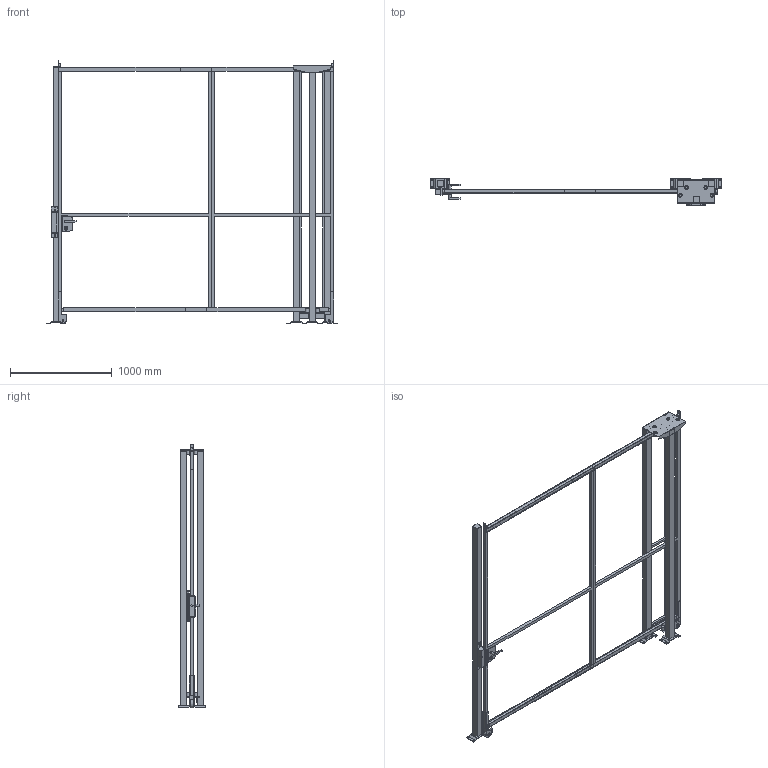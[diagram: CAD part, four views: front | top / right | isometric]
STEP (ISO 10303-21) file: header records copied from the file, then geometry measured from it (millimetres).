
FILE_DESCRIPTION(/* description */ (''),/* implementation_level */ '2;1');
FILE_NAME(/* name */ 'C:\SafeGuarding\ELABORATI\KLADKOUGAMMA_2025-03-21-11-59-28.stp',/* time_stamp */ '2025-03-21T11:59:33+01:00',/* author */ ('admin'),/* organization */ (''),/* preprocessor_version */ 'ST-DEVELOPER v18.1',/* originating_system */ 'AutoCAD Mechanical',/* authorisation */ '');
FILE_SCHEMA (('AUTOMOTIVE_DESIGN { 1 0 10303 214 3 1 1 }'));
Length unit declared in the file: millimetre
Products named in the file (5): Product; VFPA.REPE30.12002400; VFPA.REPE30.15002400; VFPA.REPE2002502400; P_VFMA.V260SDU.2520
Assembly tree (7 placements, depth 2):
  Product
    VFPA.REPE30.12002400
    VFPA.REPE30.15002400
    P_VFMA.V260SDU.2520  x4
    VFPA.REPE2002502400
Bounding box: 2861.91 x 264 x 2590.02 mm (x, y, z)
Volume: 58613157.4 mm3; surface area: 7409888.9 mm2
Topology: 55 solids, 55 shells, 554 faces, 1692 edges, 1640 vertices
Faces by surface type: plane 476, cylinder 74, bspline 4
Full cylindrical faces by diameter (mm): 9 x4, 11 x16, 13 x4, 18 x1, 25 x2, 25.398 x2, 30 x6, 36 x8, 80 x2
Entity records: 17168 total; most frequent: CARTESIAN_POINT 4526, DIRECTION 2516, ORIENTED_EDGE 2206, LINE 1172, VECTOR 1172, EDGE_CURVE 1103, VERTEX_POINT 742, AXIS2_PLACEMENT_3D 672
